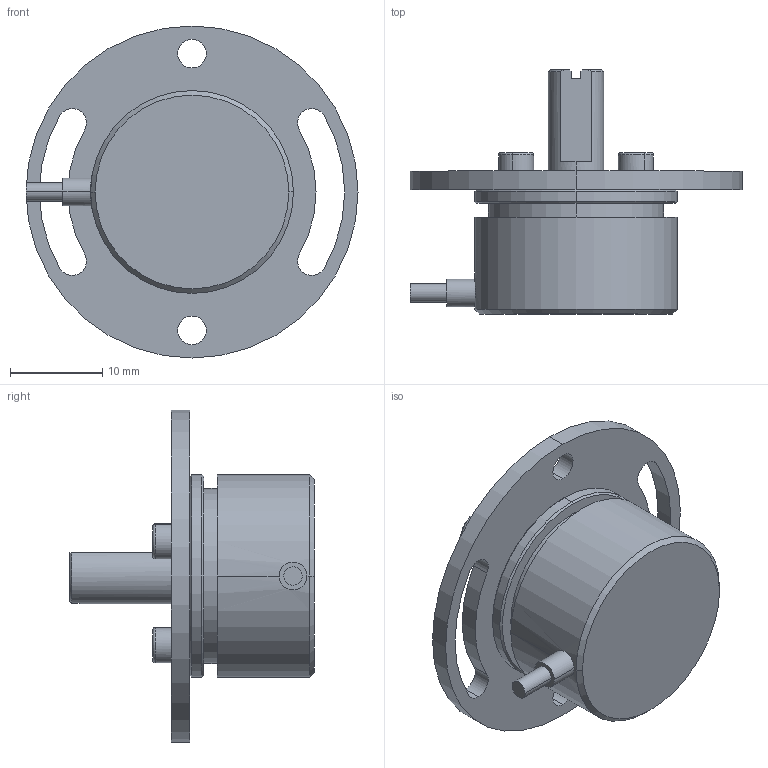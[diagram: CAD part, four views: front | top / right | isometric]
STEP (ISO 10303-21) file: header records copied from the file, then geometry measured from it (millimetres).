
FILE_DESCRIPTION (( 'STEP AP203' ), '1' );
FILE_NAME ('LMME-22（V1.02）微型编码器-外发版本.STEP', '2025-05-26T10:59:25', ( '' ), ( '' ), 'SwSTEP 2.0', 'SolidWorks 2024', '' );
FILE_SCHEMA (( 'CONFIG_CONTROL_DESIGN' ));
Length unit declared in the file: millimetre
Products named in the file (1): LMME-22（V1.02）微型编码器-外发版本
Bounding box: 36 x 26.5 x 36 mm (x, y, z)
Volume: 7001.3 mm3; surface area: 3896.9 mm2
Topology: 1 solids, 1 shells, 91 faces, 211 edges, 134 vertices
Faces by surface type: cylinder 46, plane 29, cone 10, torus 6
Entity records: 2776 total; most frequent: DIRECTION 517, CARTESIAN_POINT 501, ORIENTED_EDGE 422, AXIS2_PLACEMENT_3D 222, EDGE_CURVE 211, VERTEX_POINT 134, CIRCLE 130, EDGE_LOOP 111
